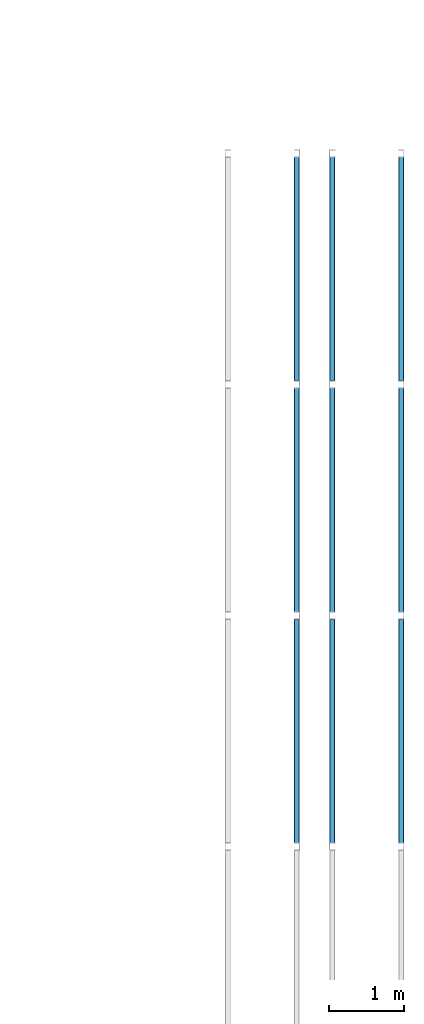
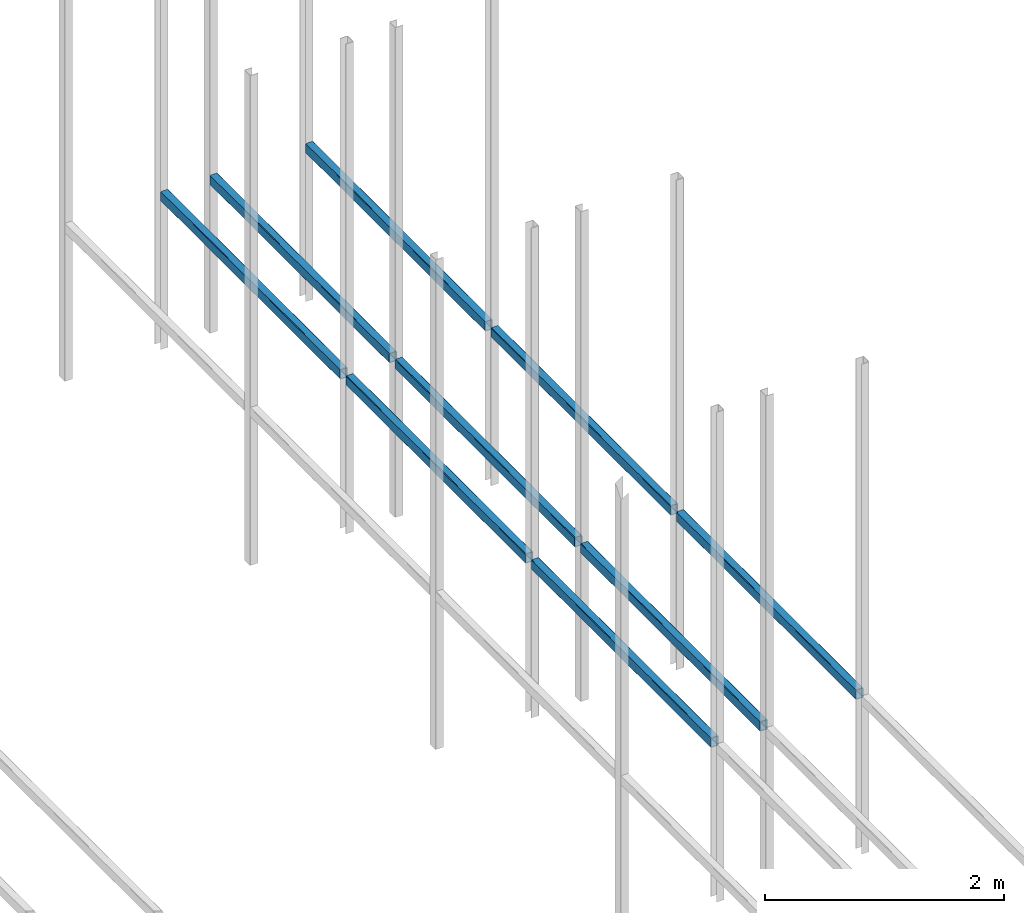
# One storey, part 190 of 302: 9 beams.
"""IFC2X3 building model written with IfcOpenShell, lengths in metres."""

from ifc_helpers import new_model, entity, si_unit, converted_unit, derived_unit, direction, frame, frame_2d, origin, place, context, subcontext, project, spatial, polyline, circle_curve, parameter, trimmed, segment, composite_curve, outline, extrude, material, type_object, element, save


model = new_model("IFC2X3")

# Units and contexts
model_context = context("Model", 3, precision=1e-05, world=origin(), true_north=direction((6.12303176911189e-17, 1.0)))
body_context = subcontext(model_context, "Body", "Model", "MODEL_VIEW")
ifc_project = project(units=[si_unit("LENGTHUNIT", "METRE"), si_unit("AREAUNIT", "SQUARE_METRE"), si_unit("VOLUMEUNIT", "CUBIC_METRE"), converted_unit("PLANEANGLEUNIT", "DEGREE", entity("IfcRatioMeasure", 0.0174532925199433), si_unit("PLANEANGLEUNIT", "RADIAN"), dimensions=[0, 0, 0, 0, 0, 0, 0]), si_unit("MASSUNIT", "GRAM", prefix="KILO"), derived_unit("MASSDENSITYUNIT", [(si_unit("MASSUNIT", "GRAM", prefix="KILO"), 1), (si_unit("LENGTHUNIT", "METRE"), -3)]), derived_unit("MOMENTOFINERTIAUNIT", [(si_unit("LENGTHUNIT", "METRE"), 4)]), si_unit("TIMEUNIT", "SECOND"), si_unit("FREQUENCYUNIT", "HERTZ"), si_unit("THERMODYNAMICTEMPERATUREUNIT", "DEGREE_CELSIUS"), derived_unit("THERMALTRANSMITTANCEUNIT", [(si_unit("MASSUNIT", "GRAM", prefix="KILO"), 1), (si_unit("THERMODYNAMICTEMPERATUREUNIT", "KELVIN"), -1), (si_unit("TIMEUNIT", "SECOND"), -3)]), derived_unit("VOLUMETRICFLOWRATEUNIT", [(si_unit("LENGTHUNIT", "METRE"), 3), (si_unit("TIMEUNIT", "SECOND"), -1)]), si_unit("ELECTRICCURRENTUNIT", "AMPERE"), si_unit("ELECTRICVOLTAGEUNIT", "VOLT"), si_unit("POWERUNIT", "WATT"), si_unit("FORCEUNIT", "NEWTON", prefix="KILO"), si_unit("ILLUMINANCEUNIT", "LUX"), si_unit("LUMINOUSFLUXUNIT", "LUMEN"), si_unit("LUMINOUSINTENSITYUNIT", "CANDELA"), derived_unit("USERDEFINED", [(si_unit("MASSUNIT", "GRAM", prefix="KILO"), -1), (si_unit("LENGTHUNIT", "METRE"), -2), (si_unit("TIMEUNIT", "SECOND"), 3), (si_unit("LUMINOUSFLUXUNIT", "LUMEN"), 1)]), derived_unit("LINEARVELOCITYUNIT", [(si_unit("LENGTHUNIT", "METRE"), 1), (si_unit("TIMEUNIT", "SECOND"), -1)]), si_unit("PRESSUREUNIT", "PASCAL"), derived_unit("USERDEFINED", [(si_unit("LENGTHUNIT", "METRE"), -2), (si_unit("MASSUNIT", "GRAM", prefix="KILO"), 1), (si_unit("TIMEUNIT", "SECOND"), -2)]), derived_unit("LINEARFORCEUNIT", [(si_unit("MASSUNIT", "GRAM", prefix="KILO"), 1), (si_unit("LENGTHUNIT", "METRE"), 1), (si_unit("TIMEUNIT", "SECOND"), -2), (si_unit("LENGTHUNIT", "METRE"), -1)]), derived_unit("PLANARFORCEUNIT", [(si_unit("MASSUNIT", "GRAM", prefix="KILO"), 1), (si_unit("LENGTHUNIT", "METRE"), 1), (si_unit("TIMEUNIT", "SECOND"), -2), (si_unit("LENGTHUNIT", "METRE"), -2)])], contexts=[model_context])

# Site, building, storey
site_placement = place(None, origin())
site = spatial("IfcSite", under=ifc_project, at=site_placement, Name="Default", CompositionType="ELEMENT")
building_placement = place(site_placement, origin())
building = spatial("IfcBuilding", under=site, at=building_placement, CompositionType="ELEMENT")
storey_placement = place(building_placement, frame((0.0, 0.0, -1.3)))
storey = spatial("IfcBuildingStorey", under=building, at=storey_placement, Name="00_EG", CompositionType="ELEMENT", Elevation=-1.3)

# Beams
ifc_material = material(Name="Metall - Baustahl S235 blau")
beam_type = type_object("IfcBeamType", Name="RHS Träger (EN 10219-2):RHS 100 x 75 x 5", PredefinedType="NOTDEFINED")
beam_1_placement = place(storey_placement, frame((-151.568311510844, 54.5480889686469, 2.885), z_axis=(0.0, 0.0, 1.0), x_axis=(0.0, 1.0, 0.0)))
element("IfcBeam", 1, at=beam_1_placement, inside=storey, type_object=beam_type, material=ifc_material, Name="RHS Träger (EN 10219-2):RHS 100 x 75 x 5", ObjectType="RHS Träger (EN 10219-2):RHS 100 x 75 x 5", context=body_context, shape_type="SweptSolid", body=[
    extrude(outline(composite_curve([segment(polyline([(-0.0399999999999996, -0.0374999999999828), (0.0400000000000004, -0.0374999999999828)]), True, "CONTINUOUS"), segment(trimmed(circle_curve(frame_2d((0.0400000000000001, -0.0274999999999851), x_axis=(0.0, 1.0)), 0.01), [parameter(180.0)], [parameter(270.0)], True, "PARAMETER"), True, "CONTINUOUS"), segment(polyline([(0.0500000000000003, -0.0274999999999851), (0.0500000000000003, 0.0275000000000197)]), True, "CONTINUOUS"), segment(trimmed(circle_curve(frame_2d((0.0400000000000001, 0.0275000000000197), x_axis=(0.0, 1.0)), 0.01), [parameter(270.0)], [parameter(4.07110999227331e-13)], True, "PARAMETER"), True, "CONTINUOUS"), segment(polyline([(0.0400000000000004, 0.0375000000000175), (-0.0399999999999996, 0.0375000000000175)]), True, "CONTINUOUS"), segment(trimmed(circle_curve(frame_2d((-0.0399999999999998, 0.0275000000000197), x_axis=(0.0, 1.0)), 0.01), [parameter(360.0)], [parameter(90.0000000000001)], True, "PARAMETER"), True, "CONTINUOUS"), segment(polyline([(-0.0499999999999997, 0.0275000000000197), (-0.0499999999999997, -0.0274999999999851)]), True, "CONTINUOUS"), segment(trimmed(circle_curve(frame_2d((-0.0399999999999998, -0.0274999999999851), x_axis=(0.0, 1.0)), 0.01), [parameter(90.0000000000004)], [parameter(180.0)], True, "PARAMETER"), True, "CONTINUOUS")], self_intersect=False), holes=[composite_curve([segment(trimmed(circle_curve(frame_2d((-0.0400000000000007, 0.0275000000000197), x_axis=(0.0, 1.0)), 0.005), [parameter(360.0)], [parameter(89.9999999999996)], True, "PARAMETER"), False, "CONTINUOUS"), segment(polyline([(-0.0400000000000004, 0.0325000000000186), (0.0399999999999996, 0.0325000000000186)]), True, "CONTINUOUS"), segment(trimmed(circle_curve(frame_2d((0.0399999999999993, 0.0275000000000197), x_axis=(0.0, 1.0)), 0.005), [parameter(270.0)], [parameter(0.0)], True, "PARAMETER"), False, "CONTINUOUS"), segment(polyline([(0.0449999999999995, 0.0275000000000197), (0.0449999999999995, -0.0274999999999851)]), True, "CONTINUOUS"), segment(trimmed(circle_curve(frame_2d((0.0399999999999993, -0.0274999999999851), x_axis=(0.0, 1.0)), 0.005), [parameter(180.0)], [parameter(269.999999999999)], True, "PARAMETER"), False, "CONTINUOUS"), segment(polyline([(0.0399999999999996, -0.0324999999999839), (-0.0400000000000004, -0.0324999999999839)]), True, "CONTINUOUS"), segment(trimmed(circle_curve(frame_2d((-0.0400000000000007, -0.0274999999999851), x_axis=(0.0, 1.0)), 0.005), [parameter(90.0000000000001)], [parameter(180.0)], True, "PARAMETER"), False, "CONTINUOUS"), segment(polyline([(-0.0450000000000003, -0.0274999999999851), (-0.0450000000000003, 0.0275000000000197)]), True, "CONTINUOUS")], self_intersect=False)]), frame((9.99999999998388e-05, -0.0375000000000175, -0.0500000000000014), z_axis=(1.0, 0.0, 0.0), x_axis=(0.0, 0.0, -1.0)), (0.0, 0.0, 1.0), 2.99979999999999),
])
beam_2_placement = place(storey_placement, frame((-151.018311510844, 54.5480889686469, 2.885), z_axis=(0.0, 0.0, 1.0), x_axis=(0.0, 1.0, 0.0)))
element("IfcBeam", 2, at=beam_2_placement, inside=storey, type_object=beam_type, material=ifc_material, Name="RHS Träger (EN 10219-2):RHS 100 x 75 x 5", ObjectType="RHS Träger (EN 10219-2):RHS 100 x 75 x 5", context=body_context, shape_type="SweptSolid", body=[
    extrude(outline(composite_curve([segment(trimmed(circle_curve(frame_2d((-0.0275000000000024, -0.0400000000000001), x_axis=(1.0, 0.0)), 0.01), [parameter(180.0)], [parameter(270.0)], True, "PARAMETER"), True, "CONTINUOUS"), segment(polyline([(-0.0275000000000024, -0.05), (0.0275000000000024, -0.05)]), True, "CONTINUOUS"), segment(trimmed(circle_curve(frame_2d((0.0275000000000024, -0.0400000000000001), x_axis=(1.0, 0.0)), 0.01), [parameter(270.0)], [parameter(5.08888749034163e-14)], True, "PARAMETER"), True, "CONTINUOUS"), segment(polyline([(0.0375000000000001, -0.0399999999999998), (0.0375000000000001, 0.0400000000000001)]), True, "CONTINUOUS"), segment(trimmed(circle_curve(frame_2d((0.0275000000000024, 0.0399999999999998), x_axis=(1.0, 0.0)), 0.01), [parameter(360.0)], [parameter(89.9999999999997)], True, "PARAMETER"), True, "CONTINUOUS"), segment(polyline([(0.0275000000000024, 0.05), (-0.0275000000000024, 0.05)]), True, "CONTINUOUS"), segment(trimmed(circle_curve(frame_2d((-0.0275000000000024, 0.0399999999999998), x_axis=(1.0, 0.0)), 0.01), [parameter(90.0000000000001)], [parameter(180.0)], True, "PARAMETER"), True, "CONTINUOUS"), segment(polyline([(-0.0375000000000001, 0.0400000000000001), (-0.0375000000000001, -0.0399999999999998)]), True, "CONTINUOUS")], self_intersect=False), holes=[composite_curve([segment(polyline([(0.0275000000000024, -0.0450000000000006), (-0.0275000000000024, -0.0450000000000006)]), True, "CONTINUOUS"), segment(trimmed(circle_curve(frame_2d((-0.0275000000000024, -0.0400000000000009), x_axis=(1.0, 0.0)), 0.005), [parameter(180.0)], [parameter(270.0)], True, "PARAMETER"), False, "CONTINUOUS"), segment(polyline([(-0.0325000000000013, -0.0400000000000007), (-0.0325000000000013, 0.0399999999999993)]), True, "CONTINUOUS"), segment(trimmed(circle_curve(frame_2d((-0.0275000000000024, 0.039999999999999), x_axis=(1.0, 0.0)), 0.005), [parameter(90.0000000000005)], [parameter(180.0)], True, "PARAMETER"), False, "CONTINUOUS"), segment(polyline([(-0.0275000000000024, 0.0449999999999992), (0.0275000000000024, 0.0449999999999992)]), True, "CONTINUOUS"), segment(trimmed(circle_curve(frame_2d((0.0275000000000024, 0.039999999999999), x_axis=(1.0, 0.0)), 0.005), [parameter(0.0)], [parameter(90.0000000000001)], True, "PARAMETER"), False, "CONTINUOUS"), segment(polyline([(0.0325000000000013, 0.0399999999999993), (0.0325000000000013, -0.0400000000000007)]), True, "CONTINUOUS"), segment(trimmed(circle_curve(frame_2d((0.0275000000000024, -0.0400000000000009), x_axis=(1.0, 0.0)), 0.005), [parameter(270.0)], [parameter(4.07110999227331e-13)], True, "PARAMETER"), False, "CONTINUOUS")], self_intersect=False)]), frame((9.99999999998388e-05, 0.0375000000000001, -0.0500000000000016), z_axis=(1.0, 0.0, 0.0), x_axis=(0.0, -1.0, 0.0)), (0.0, 0.0, 1.0), 2.99979999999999),
])
beam_3_placement = place(storey_placement, frame((-150.168311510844, 54.5480889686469, 2.885), z_axis=(0.0, 0.0, 1.0), x_axis=(0.0, 1.0, 0.0)))
element("IfcBeam", 3, at=beam_3_placement, inside=storey, type_object=beam_type, material=ifc_material, Name="RHS Träger (EN 10219-2):RHS 100 x 75 x 5", ObjectType="RHS Träger (EN 10219-2):RHS 100 x 75 x 5", context=body_context, shape_type="SweptSolid", body=[
    extrude(outline(composite_curve([segment(polyline([(-0.0399999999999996, -0.0375000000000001), (0.0400000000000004, -0.0375000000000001)]), True, "CONTINUOUS"), segment(trimmed(circle_curve(frame_2d((0.0400000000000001, -0.0275000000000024), x_axis=(0.0, 1.0)), 0.01), [parameter(180.0)], [parameter(270.0)], True, "PARAMETER"), True, "CONTINUOUS"), segment(polyline([(0.0500000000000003, -0.0275000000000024), (0.0500000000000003, 0.0275000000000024)]), True, "CONTINUOUS"), segment(trimmed(circle_curve(frame_2d((0.0400000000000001, 0.0275000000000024), x_axis=(0.0, 1.0)), 0.01), [parameter(270.0)], [parameter(4.07110999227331e-13)], True, "PARAMETER"), True, "CONTINUOUS"), segment(polyline([(0.0400000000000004, 0.0375000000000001), (-0.0399999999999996, 0.0375000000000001)]), True, "CONTINUOUS"), segment(trimmed(circle_curve(frame_2d((-0.0399999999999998, 0.0275000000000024), x_axis=(0.0, 1.0)), 0.01), [parameter(360.0)], [parameter(90.0000000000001)], True, "PARAMETER"), True, "CONTINUOUS"), segment(polyline([(-0.0499999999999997, 0.0275000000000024), (-0.0499999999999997, -0.0275000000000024)]), True, "CONTINUOUS"), segment(trimmed(circle_curve(frame_2d((-0.0399999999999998, -0.0275000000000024), x_axis=(0.0, 1.0)), 0.01), [parameter(90.0000000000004)], [parameter(180.0)], True, "PARAMETER"), True, "CONTINUOUS")], self_intersect=False), holes=[composite_curve([segment(trimmed(circle_curve(frame_2d((-0.0400000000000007, 0.0275000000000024), x_axis=(0.0, 1.0)), 0.005), [parameter(360.0)], [parameter(89.9999999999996)], True, "PARAMETER"), False, "CONTINUOUS"), segment(polyline([(-0.0400000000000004, 0.0325000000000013), (0.0399999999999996, 0.0325000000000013)]), True, "CONTINUOUS"), segment(trimmed(circle_curve(frame_2d((0.0399999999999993, 0.0275000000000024), x_axis=(0.0, 1.0)), 0.005), [parameter(270.0)], [parameter(0.0)], True, "PARAMETER"), False, "CONTINUOUS"), segment(polyline([(0.0449999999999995, 0.0275000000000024), (0.0449999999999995, -0.0275000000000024)]), True, "CONTINUOUS"), segment(trimmed(circle_curve(frame_2d((0.0399999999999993, -0.0275000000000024), x_axis=(0.0, 1.0)), 0.005), [parameter(180.0)], [parameter(269.999999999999)], True, "PARAMETER"), False, "CONTINUOUS"), segment(polyline([(0.0399999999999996, -0.0325000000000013), (-0.0400000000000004, -0.0325000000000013)]), True, "CONTINUOUS"), segment(trimmed(circle_curve(frame_2d((-0.0400000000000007, -0.0275000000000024), x_axis=(0.0, 1.0)), 0.005), [parameter(90.0000000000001)], [parameter(180.0)], True, "PARAMETER"), False, "CONTINUOUS"), segment(polyline([(-0.0450000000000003, -0.0275000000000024), (-0.0450000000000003, 0.0275000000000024)]), True, "CONTINUOUS")], self_intersect=False)]), frame((9.99999999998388e-05, -0.0375000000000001, -0.0500000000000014), z_axis=(1.0, 0.0, 0.0), x_axis=(0.0, 0.0, -1.0)), (0.0, 0.0, 1.0), 2.99979999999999),
])
beam_4_placement = place(storey_placement, frame((-151.568311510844, 57.6480889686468, 2.885), z_axis=(0.0, 0.0, 1.0), x_axis=(0.0, 1.0, 0.0)))
element("IfcBeam", 4, at=beam_4_placement, inside=storey, type_object=beam_type, material=ifc_material, Name="RHS Träger (EN 10219-2):RHS 100 x 75 x 5", ObjectType="RHS Träger (EN 10219-2):RHS 100 x 75 x 5", context=body_context, shape_type="SweptSolid", body=[
    extrude(outline(composite_curve([segment(polyline([(-0.0399999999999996, -0.0374999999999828), (0.0400000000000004, -0.0374999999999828)]), True, "CONTINUOUS"), segment(trimmed(circle_curve(frame_2d((0.0400000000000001, -0.0274999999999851), x_axis=(0.0, 1.0)), 0.01), [parameter(180.0)], [parameter(270.0)], True, "PARAMETER"), True, "CONTINUOUS"), segment(polyline([(0.0500000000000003, -0.0274999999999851), (0.0500000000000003, 0.0275000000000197)]), True, "CONTINUOUS"), segment(trimmed(circle_curve(frame_2d((0.0400000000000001, 0.0275000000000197), x_axis=(0.0, 1.0)), 0.01), [parameter(270.0)], [parameter(4.07110999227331e-13)], True, "PARAMETER"), True, "CONTINUOUS"), segment(polyline([(0.0400000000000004, 0.0375000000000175), (-0.0399999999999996, 0.0375000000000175)]), True, "CONTINUOUS"), segment(trimmed(circle_curve(frame_2d((-0.0399999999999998, 0.0275000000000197), x_axis=(0.0, 1.0)), 0.01), [parameter(360.0)], [parameter(90.0000000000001)], True, "PARAMETER"), True, "CONTINUOUS"), segment(polyline([(-0.0499999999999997, 0.0275000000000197), (-0.0499999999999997, -0.0274999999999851)]), True, "CONTINUOUS"), segment(trimmed(circle_curve(frame_2d((-0.0399999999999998, -0.0274999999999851), x_axis=(0.0, 1.0)), 0.01), [parameter(90.0000000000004)], [parameter(180.0)], True, "PARAMETER"), True, "CONTINUOUS")], self_intersect=False), holes=[composite_curve([segment(trimmed(circle_curve(frame_2d((-0.0400000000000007, 0.0275000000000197), x_axis=(0.0, 1.0)), 0.005), [parameter(360.0)], [parameter(89.9999999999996)], True, "PARAMETER"), False, "CONTINUOUS"), segment(polyline([(-0.0400000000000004, 0.0325000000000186), (0.0399999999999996, 0.0325000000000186)]), True, "CONTINUOUS"), segment(trimmed(circle_curve(frame_2d((0.0399999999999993, 0.0275000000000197), x_axis=(0.0, 1.0)), 0.005), [parameter(270.0)], [parameter(0.0)], True, "PARAMETER"), False, "CONTINUOUS"), segment(polyline([(0.0449999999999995, 0.0275000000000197), (0.0449999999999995, -0.0274999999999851)]), True, "CONTINUOUS"), segment(trimmed(circle_curve(frame_2d((0.0399999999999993, -0.0274999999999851), x_axis=(0.0, 1.0)), 0.005), [parameter(180.0)], [parameter(269.999999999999)], True, "PARAMETER"), False, "CONTINUOUS"), segment(polyline([(0.0399999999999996, -0.0324999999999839), (-0.0400000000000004, -0.0324999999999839)]), True, "CONTINUOUS"), segment(trimmed(circle_curve(frame_2d((-0.0400000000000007, -0.0274999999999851), x_axis=(0.0, 1.0)), 0.005), [parameter(90.0000000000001)], [parameter(180.0)], True, "PARAMETER"), False, "CONTINUOUS"), segment(polyline([(-0.0450000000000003, -0.0274999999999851), (-0.0450000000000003, 0.0275000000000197)]), True, "CONTINUOUS")], self_intersect=False)]), frame((9.99999999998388e-05, -0.0375000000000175, -0.0500000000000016), z_axis=(1.0, 0.0, 0.0), x_axis=(0.0, 0.0, -1.0)), (0.0, 0.0, 1.0), 2.99979999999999),
])
beam_5_placement = place(storey_placement, frame((-151.018311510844, 57.6480889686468, 2.885), z_axis=(0.0, 0.0, 1.0), x_axis=(0.0, 1.0, 0.0)))
element("IfcBeam", 5, at=beam_5_placement, inside=storey, type_object=beam_type, material=ifc_material, Name="RHS Träger (EN 10219-2):RHS 100 x 75 x 5", ObjectType="RHS Träger (EN 10219-2):RHS 100 x 75 x 5", context=body_context, shape_type="SweptSolid", body=[
    extrude(outline(composite_curve([segment(trimmed(circle_curve(frame_2d((-0.0275000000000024, -0.0400000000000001), x_axis=(1.0, 0.0)), 0.01), [parameter(180.0)], [parameter(270.0)], True, "PARAMETER"), True, "CONTINUOUS"), segment(polyline([(-0.0275000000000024, -0.05), (0.0275000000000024, -0.05)]), True, "CONTINUOUS"), segment(trimmed(circle_curve(frame_2d((0.0275000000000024, -0.0400000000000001), x_axis=(1.0, 0.0)), 0.01), [parameter(270.0)], [parameter(5.08888749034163e-14)], True, "PARAMETER"), True, "CONTINUOUS"), segment(polyline([(0.0375000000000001, -0.0399999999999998), (0.0375000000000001, 0.0400000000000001)]), True, "CONTINUOUS"), segment(trimmed(circle_curve(frame_2d((0.0275000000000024, 0.0399999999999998), x_axis=(1.0, 0.0)), 0.01), [parameter(360.0)], [parameter(89.9999999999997)], True, "PARAMETER"), True, "CONTINUOUS"), segment(polyline([(0.0275000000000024, 0.05), (-0.0275000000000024, 0.05)]), True, "CONTINUOUS"), segment(trimmed(circle_curve(frame_2d((-0.0275000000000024, 0.0399999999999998), x_axis=(1.0, 0.0)), 0.01), [parameter(90.0000000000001)], [parameter(180.0)], True, "PARAMETER"), True, "CONTINUOUS"), segment(polyline([(-0.0375000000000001, 0.0400000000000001), (-0.0375000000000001, -0.0399999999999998)]), True, "CONTINUOUS")], self_intersect=False), holes=[composite_curve([segment(polyline([(0.0275000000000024, -0.0450000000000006), (-0.0275000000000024, -0.0450000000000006)]), True, "CONTINUOUS"), segment(trimmed(circle_curve(frame_2d((-0.0275000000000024, -0.0400000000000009), x_axis=(1.0, 0.0)), 0.005), [parameter(180.0)], [parameter(270.0)], True, "PARAMETER"), False, "CONTINUOUS"), segment(polyline([(-0.0325000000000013, -0.0400000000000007), (-0.0325000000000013, 0.0399999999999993)]), True, "CONTINUOUS"), segment(trimmed(circle_curve(frame_2d((-0.0275000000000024, 0.039999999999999), x_axis=(1.0, 0.0)), 0.005), [parameter(90.0000000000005)], [parameter(180.0)], True, "PARAMETER"), False, "CONTINUOUS"), segment(polyline([(-0.0275000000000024, 0.0449999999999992), (0.0275000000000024, 0.0449999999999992)]), True, "CONTINUOUS"), segment(trimmed(circle_curve(frame_2d((0.0275000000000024, 0.039999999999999), x_axis=(1.0, 0.0)), 0.005), [parameter(0.0)], [parameter(90.0000000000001)], True, "PARAMETER"), False, "CONTINUOUS"), segment(polyline([(0.0325000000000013, 0.0399999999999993), (0.0325000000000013, -0.0400000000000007)]), True, "CONTINUOUS"), segment(trimmed(circle_curve(frame_2d((0.0275000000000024, -0.0400000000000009), x_axis=(1.0, 0.0)), 0.005), [parameter(270.0)], [parameter(4.07110999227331e-13)], True, "PARAMETER"), False, "CONTINUOUS")], self_intersect=False)]), frame((9.99999999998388e-05, 0.0375000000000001, -0.0500000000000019), z_axis=(1.0, 0.0, 0.0), x_axis=(0.0, -1.0, 0.0)), (0.0, 0.0, 1.0), 2.99979999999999),
])
beam_6_placement = place(storey_placement, frame((-150.168311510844, 57.6480889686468, 2.885), z_axis=(0.0, 0.0, 1.0), x_axis=(0.0, 1.0, 0.0)))
element("IfcBeam", 6, at=beam_6_placement, inside=storey, type_object=beam_type, material=ifc_material, Name="RHS Träger (EN 10219-2):RHS 100 x 75 x 5", ObjectType="RHS Träger (EN 10219-2):RHS 100 x 75 x 5", context=body_context, shape_type="SweptSolid", body=[
    extrude(outline(composite_curve([segment(polyline([(-0.0399999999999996, -0.0375000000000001), (0.0400000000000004, -0.0375000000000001)]), True, "CONTINUOUS"), segment(trimmed(circle_curve(frame_2d((0.0400000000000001, -0.0275000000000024), x_axis=(0.0, 1.0)), 0.01), [parameter(180.0)], [parameter(270.0)], True, "PARAMETER"), True, "CONTINUOUS"), segment(polyline([(0.0500000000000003, -0.0275000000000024), (0.0500000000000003, 0.0275000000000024)]), True, "CONTINUOUS"), segment(trimmed(circle_curve(frame_2d((0.0400000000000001, 0.0275000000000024), x_axis=(0.0, 1.0)), 0.01), [parameter(270.0)], [parameter(4.07110999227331e-13)], True, "PARAMETER"), True, "CONTINUOUS"), segment(polyline([(0.0400000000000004, 0.0375000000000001), (-0.0399999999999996, 0.0375000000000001)]), True, "CONTINUOUS"), segment(trimmed(circle_curve(frame_2d((-0.0399999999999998, 0.0275000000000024), x_axis=(0.0, 1.0)), 0.01), [parameter(360.0)], [parameter(90.0000000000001)], True, "PARAMETER"), True, "CONTINUOUS"), segment(polyline([(-0.0499999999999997, 0.0275000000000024), (-0.0499999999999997, -0.0275000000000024)]), True, "CONTINUOUS"), segment(trimmed(circle_curve(frame_2d((-0.0399999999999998, -0.0275000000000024), x_axis=(0.0, 1.0)), 0.01), [parameter(90.0000000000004)], [parameter(180.0)], True, "PARAMETER"), True, "CONTINUOUS")], self_intersect=False), holes=[composite_curve([segment(trimmed(circle_curve(frame_2d((-0.0400000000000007, 0.0275000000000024), x_axis=(0.0, 1.0)), 0.005), [parameter(360.0)], [parameter(89.9999999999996)], True, "PARAMETER"), False, "CONTINUOUS"), segment(polyline([(-0.0400000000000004, 0.0325000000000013), (0.0399999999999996, 0.0325000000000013)]), True, "CONTINUOUS"), segment(trimmed(circle_curve(frame_2d((0.0399999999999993, 0.0275000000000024), x_axis=(0.0, 1.0)), 0.005), [parameter(270.0)], [parameter(0.0)], True, "PARAMETER"), False, "CONTINUOUS"), segment(polyline([(0.0449999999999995, 0.0275000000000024), (0.0449999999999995, -0.0275000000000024)]), True, "CONTINUOUS"), segment(trimmed(circle_curve(frame_2d((0.0399999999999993, -0.0275000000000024), x_axis=(0.0, 1.0)), 0.005), [parameter(180.0)], [parameter(269.999999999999)], True, "PARAMETER"), False, "CONTINUOUS"), segment(polyline([(0.0399999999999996, -0.0325000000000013), (-0.0400000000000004, -0.0325000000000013)]), True, "CONTINUOUS"), segment(trimmed(circle_curve(frame_2d((-0.0400000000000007, -0.0275000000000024), x_axis=(0.0, 1.0)), 0.005), [parameter(90.0000000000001)], [parameter(180.0)], True, "PARAMETER"), False, "CONTINUOUS"), segment(polyline([(-0.0450000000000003, -0.0275000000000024), (-0.0450000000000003, 0.0275000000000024)]), True, "CONTINUOUS")], self_intersect=False)]), frame((9.99999999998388e-05, -0.0375000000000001, -0.0500000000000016), z_axis=(1.0, 0.0, 0.0), x_axis=(0.0, 0.0, -1.0)), (0.0, 0.0, 1.0), 2.99979999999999),
])
beam_7_placement = place(storey_placement, frame((-151.568311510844, 60.7480889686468, 2.885), z_axis=(0.0, 0.0, 1.0), x_axis=(0.0, 1.0, 0.0)))
element("IfcBeam", 7, at=beam_7_placement, inside=storey, type_object=beam_type, material=ifc_material, Name="RHS Träger (EN 10219-2):RHS 100 x 75 x 5", ObjectType="RHS Träger (EN 10219-2):RHS 100 x 75 x 5", context=body_context, shape_type="SweptSolid", body=[
    extrude(outline(composite_curve([segment(polyline([(-0.0399999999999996, -0.0374999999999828), (0.0400000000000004, -0.0374999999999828)]), True, "CONTINUOUS"), segment(trimmed(circle_curve(frame_2d((0.0400000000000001, -0.0274999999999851), x_axis=(0.0, 1.0)), 0.01), [parameter(180.0)], [parameter(270.0)], True, "PARAMETER"), True, "CONTINUOUS"), segment(polyline([(0.0500000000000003, -0.0274999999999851), (0.0500000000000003, 0.0275000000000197)]), True, "CONTINUOUS"), segment(trimmed(circle_curve(frame_2d((0.0400000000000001, 0.0275000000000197), x_axis=(0.0, 1.0)), 0.01), [parameter(270.0)], [parameter(4.07110999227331e-13)], True, "PARAMETER"), True, "CONTINUOUS"), segment(polyline([(0.0400000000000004, 0.0375000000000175), (-0.0399999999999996, 0.0375000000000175)]), True, "CONTINUOUS"), segment(trimmed(circle_curve(frame_2d((-0.0399999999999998, 0.0275000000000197), x_axis=(0.0, 1.0)), 0.01), [parameter(360.0)], [parameter(90.0000000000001)], True, "PARAMETER"), True, "CONTINUOUS"), segment(polyline([(-0.0499999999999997, 0.0275000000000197), (-0.0499999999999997, -0.0274999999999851)]), True, "CONTINUOUS"), segment(trimmed(circle_curve(frame_2d((-0.0399999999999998, -0.0274999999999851), x_axis=(0.0, 1.0)), 0.01), [parameter(90.0000000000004)], [parameter(180.0)], True, "PARAMETER"), True, "CONTINUOUS")], self_intersect=False), holes=[composite_curve([segment(trimmed(circle_curve(frame_2d((-0.0400000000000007, 0.0275000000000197), x_axis=(0.0, 1.0)), 0.005), [parameter(360.0)], [parameter(89.9999999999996)], True, "PARAMETER"), False, "CONTINUOUS"), segment(polyline([(-0.0400000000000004, 0.0325000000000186), (0.0399999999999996, 0.0325000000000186)]), True, "CONTINUOUS"), segment(trimmed(circle_curve(frame_2d((0.0399999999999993, 0.0275000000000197), x_axis=(0.0, 1.0)), 0.005), [parameter(270.0)], [parameter(0.0)], True, "PARAMETER"), False, "CONTINUOUS"), segment(polyline([(0.0449999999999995, 0.0275000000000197), (0.0449999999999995, -0.0274999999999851)]), True, "CONTINUOUS"), segment(trimmed(circle_curve(frame_2d((0.0399999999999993, -0.0274999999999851), x_axis=(0.0, 1.0)), 0.005), [parameter(180.0)], [parameter(269.999999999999)], True, "PARAMETER"), False, "CONTINUOUS"), segment(polyline([(0.0399999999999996, -0.0324999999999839), (-0.0400000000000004, -0.0324999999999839)]), True, "CONTINUOUS"), segment(trimmed(circle_curve(frame_2d((-0.0400000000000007, -0.0274999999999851), x_axis=(0.0, 1.0)), 0.005), [parameter(90.0000000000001)], [parameter(180.0)], True, "PARAMETER"), False, "CONTINUOUS"), segment(polyline([(-0.0450000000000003, -0.0274999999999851), (-0.0450000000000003, 0.0275000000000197)]), True, "CONTINUOUS")], self_intersect=False)]), frame((0.000100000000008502, -0.0375000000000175, -0.0500000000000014), z_axis=(1.0, 0.0, 0.0), x_axis=(0.0, 0.0, -1.0)), (0.0, 0.0, 1.0), 2.99979999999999),
])
beam_8_placement = place(storey_placement, frame((-151.018311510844, 60.7480889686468, 2.885), z_axis=(0.0, 0.0, 1.0), x_axis=(0.0, 1.0, 0.0)))
element("IfcBeam", 8, at=beam_8_placement, inside=storey, type_object=beam_type, material=ifc_material, Name="RHS Träger (EN 10219-2):RHS 100 x 75 x 5", ObjectType="RHS Träger (EN 10219-2):RHS 100 x 75 x 5", context=body_context, shape_type="SweptSolid", body=[
    extrude(outline(composite_curve([segment(trimmed(circle_curve(frame_2d((-0.0275000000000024, -0.0400000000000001), x_axis=(1.0, 0.0)), 0.01), [parameter(180.0)], [parameter(270.0)], True, "PARAMETER"), True, "CONTINUOUS"), segment(polyline([(-0.0275000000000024, -0.05), (0.0275000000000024, -0.05)]), True, "CONTINUOUS"), segment(trimmed(circle_curve(frame_2d((0.0275000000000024, -0.0400000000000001), x_axis=(1.0, 0.0)), 0.01), [parameter(270.0)], [parameter(5.08888749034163e-14)], True, "PARAMETER"), True, "CONTINUOUS"), segment(polyline([(0.0375000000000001, -0.0399999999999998), (0.0375000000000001, 0.0400000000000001)]), True, "CONTINUOUS"), segment(trimmed(circle_curve(frame_2d((0.0275000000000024, 0.0399999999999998), x_axis=(1.0, 0.0)), 0.01), [parameter(360.0)], [parameter(89.9999999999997)], True, "PARAMETER"), True, "CONTINUOUS"), segment(polyline([(0.0275000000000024, 0.05), (-0.0275000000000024, 0.05)]), True, "CONTINUOUS"), segment(trimmed(circle_curve(frame_2d((-0.0275000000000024, 0.0399999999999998), x_axis=(1.0, 0.0)), 0.01), [parameter(90.0000000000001)], [parameter(180.0)], True, "PARAMETER"), True, "CONTINUOUS"), segment(polyline([(-0.0375000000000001, 0.0400000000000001), (-0.0375000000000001, -0.0399999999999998)]), True, "CONTINUOUS")], self_intersect=False), holes=[composite_curve([segment(polyline([(0.0275000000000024, -0.0450000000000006), (-0.0275000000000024, -0.0450000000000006)]), True, "CONTINUOUS"), segment(trimmed(circle_curve(frame_2d((-0.0275000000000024, -0.0400000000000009), x_axis=(1.0, 0.0)), 0.005), [parameter(180.0)], [parameter(270.0)], True, "PARAMETER"), False, "CONTINUOUS"), segment(polyline([(-0.0325000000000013, -0.0400000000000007), (-0.0325000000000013, 0.0399999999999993)]), True, "CONTINUOUS"), segment(trimmed(circle_curve(frame_2d((-0.0275000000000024, 0.039999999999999), x_axis=(1.0, 0.0)), 0.005), [parameter(90.0000000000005)], [parameter(180.0)], True, "PARAMETER"), False, "CONTINUOUS"), segment(polyline([(-0.0275000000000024, 0.0449999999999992), (0.0275000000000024, 0.0449999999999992)]), True, "CONTINUOUS"), segment(trimmed(circle_curve(frame_2d((0.0275000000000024, 0.039999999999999), x_axis=(1.0, 0.0)), 0.005), [parameter(0.0)], [parameter(90.0000000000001)], True, "PARAMETER"), False, "CONTINUOUS"), segment(polyline([(0.0325000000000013, 0.0399999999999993), (0.0325000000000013, -0.0400000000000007)]), True, "CONTINUOUS"), segment(trimmed(circle_curve(frame_2d((0.0275000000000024, -0.0400000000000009), x_axis=(1.0, 0.0)), 0.005), [parameter(270.0)], [parameter(4.07110999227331e-13)], True, "PARAMETER"), False, "CONTINUOUS")], self_intersect=False)]), frame((0.000100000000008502, 0.0375000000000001, -0.0500000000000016), z_axis=(1.0, 0.0, 0.0), x_axis=(0.0, -1.0, 0.0)), (0.0, 0.0, 1.0), 2.99979999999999),
])
beam_9_placement = place(storey_placement, frame((-150.168311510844, 60.7480889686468, 2.885), z_axis=(0.0, 0.0, 1.0), x_axis=(0.0, 1.0, 0.0)))
element("IfcBeam", 9, at=beam_9_placement, inside=storey, type_object=beam_type, material=ifc_material, Name="RHS Träger (EN 10219-2):RHS 100 x 75 x 5", ObjectType="RHS Träger (EN 10219-2):RHS 100 x 75 x 5", context=body_context, shape_type="SweptSolid", body=[
    extrude(outline(composite_curve([segment(polyline([(-0.0399999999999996, -0.0375000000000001), (0.0400000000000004, -0.0375000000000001)]), True, "CONTINUOUS"), segment(trimmed(circle_curve(frame_2d((0.0400000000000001, -0.0275000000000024), x_axis=(0.0, 1.0)), 0.01), [parameter(180.0)], [parameter(270.0)], True, "PARAMETER"), True, "CONTINUOUS"), segment(polyline([(0.0500000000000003, -0.0275000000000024), (0.0500000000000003, 0.0275000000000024)]), True, "CONTINUOUS"), segment(trimmed(circle_curve(frame_2d((0.0400000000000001, 0.0275000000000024), x_axis=(0.0, 1.0)), 0.01), [parameter(270.0)], [parameter(4.07110999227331e-13)], True, "PARAMETER"), True, "CONTINUOUS"), segment(polyline([(0.0400000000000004, 0.0375000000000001), (-0.0399999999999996, 0.0375000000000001)]), True, "CONTINUOUS"), segment(trimmed(circle_curve(frame_2d((-0.0399999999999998, 0.0275000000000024), x_axis=(0.0, 1.0)), 0.01), [parameter(360.0)], [parameter(90.0000000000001)], True, "PARAMETER"), True, "CONTINUOUS"), segment(polyline([(-0.0499999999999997, 0.0275000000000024), (-0.0499999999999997, -0.0275000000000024)]), True, "CONTINUOUS"), segment(trimmed(circle_curve(frame_2d((-0.0399999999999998, -0.0275000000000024), x_axis=(0.0, 1.0)), 0.01), [parameter(90.0000000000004)], [parameter(180.0)], True, "PARAMETER"), True, "CONTINUOUS")], self_intersect=False), holes=[composite_curve([segment(trimmed(circle_curve(frame_2d((-0.0400000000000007, 0.0275000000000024), x_axis=(0.0, 1.0)), 0.005), [parameter(360.0)], [parameter(89.9999999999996)], True, "PARAMETER"), False, "CONTINUOUS"), segment(polyline([(-0.0400000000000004, 0.0325000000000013), (0.0399999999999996, 0.0325000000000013)]), True, "CONTINUOUS"), segment(trimmed(circle_curve(frame_2d((0.0399999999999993, 0.0275000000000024), x_axis=(0.0, 1.0)), 0.005), [parameter(270.0)], [parameter(0.0)], True, "PARAMETER"), False, "CONTINUOUS"), segment(polyline([(0.0449999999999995, 0.0275000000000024), (0.0449999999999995, -0.0275000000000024)]), True, "CONTINUOUS"), segment(trimmed(circle_curve(frame_2d((0.0399999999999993, -0.0275000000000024), x_axis=(0.0, 1.0)), 0.005), [parameter(180.0)], [parameter(269.999999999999)], True, "PARAMETER"), False, "CONTINUOUS"), segment(polyline([(0.0399999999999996, -0.0325000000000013), (-0.0400000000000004, -0.0325000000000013)]), True, "CONTINUOUS"), segment(trimmed(circle_curve(frame_2d((-0.0400000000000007, -0.0275000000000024), x_axis=(0.0, 1.0)), 0.005), [parameter(90.0000000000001)], [parameter(180.0)], True, "PARAMETER"), False, "CONTINUOUS"), segment(polyline([(-0.0450000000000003, -0.0275000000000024), (-0.0450000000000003, 0.0275000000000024)]), True, "CONTINUOUS")], self_intersect=False)]), frame((0.000100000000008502, -0.0375000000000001, -0.0500000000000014), z_axis=(1.0, 0.0, 0.0), x_axis=(0.0, 0.0, -1.0)), (0.0, 0.0, 1.0), 2.99979999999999),
])

save(model, "model.ifc")
